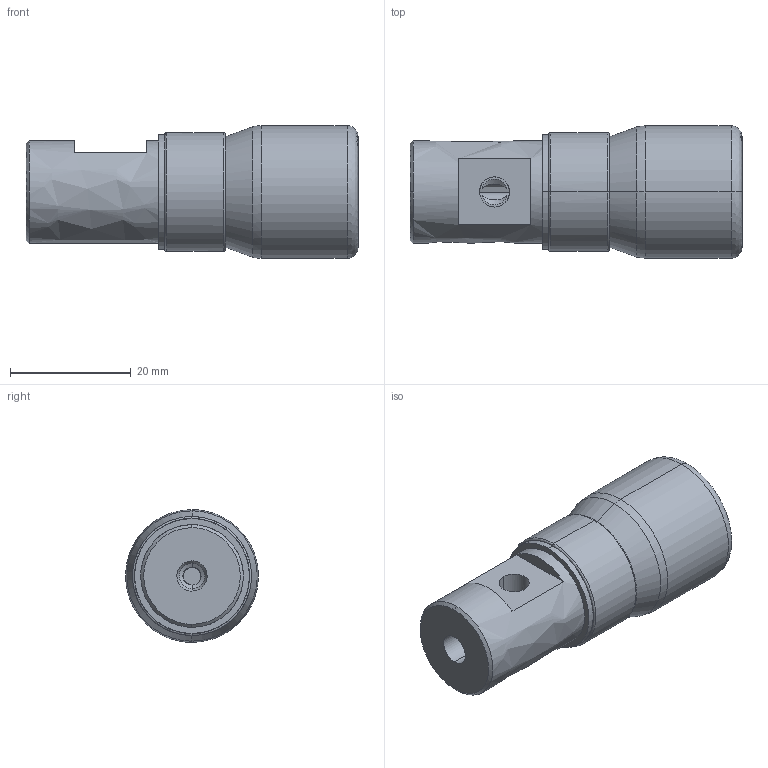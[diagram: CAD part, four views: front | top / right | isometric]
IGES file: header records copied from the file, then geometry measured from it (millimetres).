
Start section: ------------------------------------------------------------------------
Global section: file name: D:\ICADMX\tmp\trans3d_spg\TGMX25.1844.RBP017RCA_23269.igs; native system: spGate; preprocessor: ver11.3.7; author: Unknown; organization: Unknown; date: 150330.151248; units: millimetre
Bounding box: 55 x 21.98 x 22 mm (x, y, z)
Volume: 14963.5 mm3; surface area: 4704 mm2
Topology: 1 solids, 1 shells, 50 faces, 109 edges, 67 vertices
Faces by surface type: bspline 50
